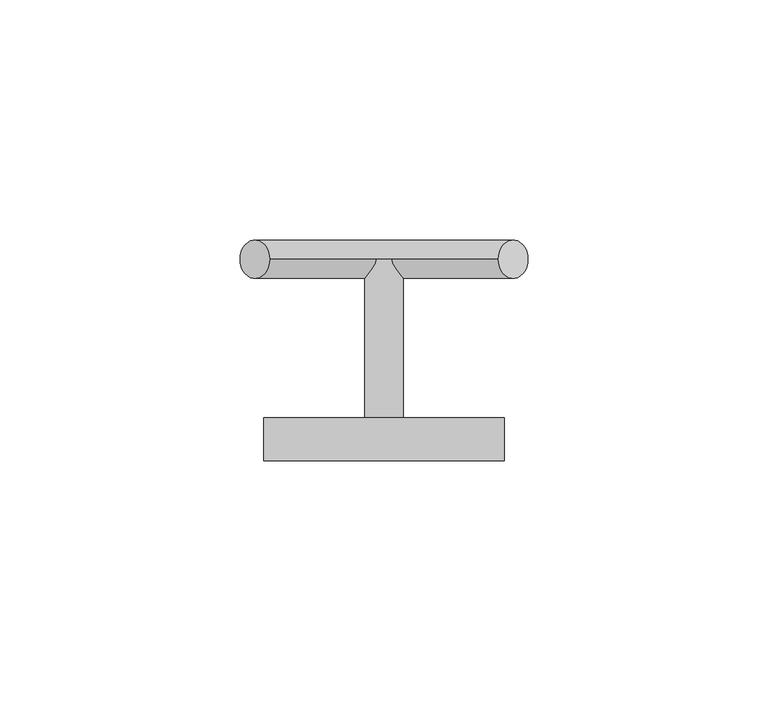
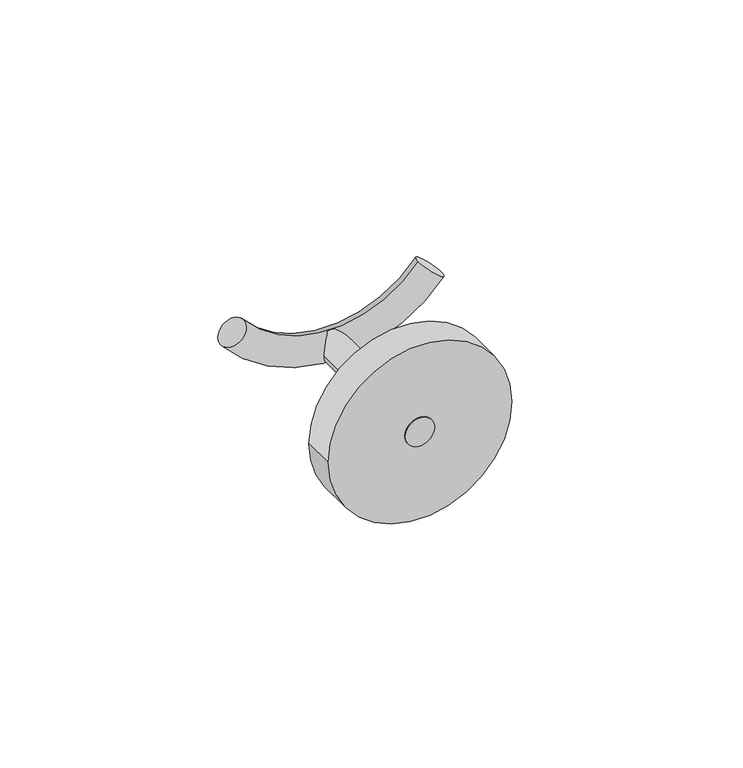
"""IFC4 building model written with IfcOpenShell, lengths in millimetres: flow terminal geometry, Toallero gancho Dica 1006 : Toallero gancho Dica 1006."""

from ifc_helpers import new_model, si_unit, point, frame, frame_2d, origin, place, context, project, spatial, circle_curve, ellipse_curve, trimmed, segment, composite_curve, outline, extrude, source, transform, mapped, element, save
from ifc_brep_helpers import plane_surface, revolved_surface, advanced_brep


def flow_terminal_dfb9102c(model_context):
    return source(origin(), model_context, "Body", "SolidModel", [
        extrude(outline(composite_curve([segment(trimmed(circle_curve(frame_2d((0.0, 125.0)), 4.0), [point((0.0, 121.0))], [point((0.0, 129.0))], False, "CARTESIAN"), True, "CONTINUOUS"), segment(trimmed(circle_curve(frame_2d((0.0, 125.0)), 4.0), [point((0.0, 129.0))], [point((0.0, 121.0))], False, "CARTESIAN"), True, "CONTINUOUS")], self_intersect=False)), frame((0.0, 26.85, 0.0), z_axis=(0.0, 1.0, 0.0), x_axis=(0.0, 0.0, 1.0)), (0.0, 0.0, 1.0), 41.9477391),
        extrude(outline(composite_curve([segment(trimmed(circle_curve(frame_2d((0.0, 125.0)), 25.0), [point((0.0, 100.0))], [point((0.0, 150.0))], False, "CARTESIAN"), True, "CONTINUOUS"), segment(trimmed(circle_curve(frame_2d((0.0, 125.0)), 25.0), [point((0.0, 150.0))], [point((0.0, 100.0))], False, "CARTESIAN"), True, "CONTINUOUS")], self_intersect=False)), frame((0.0, 26.85, 0.0), z_axis=(0.0, 1.0, 0.0), x_axis=(0.0, 0.0, 1.0)), (0.0, 0.0, 1.0), 8.9918697),
        advanced_brep(
        [(148.794894, 68.7977391, 15.1860733), (154.9551537, 68.7977391, 10.0820356), (101.205106, 68.7977391, 15.1860733), (95.0448463, 68.7977391, 10.0820356)],
        [
            (0, 1, circle_curve(frame((151.8750238, 68.7977391, 12.6340545), z_axis=(0.6380047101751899, 0.0, 0.7700324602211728), x_axis=(0.7700324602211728, 0.0, -0.6380047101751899)), 4.0)),
            (1, 0, circle_curve(frame((151.8750238, 68.7977391, 12.6340545), z_axis=(0.6380047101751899, 0.0, 0.7700324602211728), x_axis=(0.7700324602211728, 0.0, -0.6380047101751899)), 4.0)),
            (2, 3, circle_curve(frame((98.1249762, 68.7977391, 12.6340545), z_axis=(-0.6380047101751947, 0.0, 0.7700324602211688), x_axis=(-0.7700324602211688, 0.0, -0.6380047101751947)), 4.0)),
            (3, 2, circle_curve(frame((98.1249762, 68.7977391, 12.6340545), z_axis=(-0.6380047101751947, 0.0, 0.7700324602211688), x_axis=(-0.7700324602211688, 0.0, -0.6380047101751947)), 4.0)),
            (3, 1, circle_curve(frame((125.0, 68.7977391, 34.901157), z_axis=(0.0, -1.0, 0.0), x_axis=(0.7700324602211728, 0.0, -0.6380047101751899)), 38.901157)),
            (0, 2, circle_curve(frame((125.0, 68.7977391, 34.901157), z_axis=(0.0, 1.0, 0.0), x_axis=(0.7700324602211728, 0.0, -0.6380047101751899)), 30.901157)),
        ],
        [
            plane_surface(frame((151.8750238, 26.85, 12.6340545), z_axis=(0.6380047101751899, 0.0, 0.7700324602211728), x_axis=(0.0, -1.0, 0.0))),
            plane_surface(frame((98.1249762, 26.85, 12.6340545), z_axis=(-0.6380047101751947, 0.0, 0.7700324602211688), x_axis=(0.0, -1.0, 0.0))),
            revolved_surface(trimmed(ellipse_curve(frame((151.8750238, 68.7977391, 12.6340545), z_axis=(0.6380047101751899, 0.0, 0.7700324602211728), x_axis=(0.7700324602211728, 0.0, -0.6380047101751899)), 4.0, 4.0), [point((148.794894, 68.7977391, 15.1860733))], [point((154.9551537, 68.7977391, 10.0820356))], True, "CARTESIAN"), (125.0, 26.85, 34.901157), (0.0, 1.0, 0.0)),
            revolved_surface(trimmed(ellipse_curve(frame((151.8750238, 68.7977391, 12.6340545), z_axis=(0.6380047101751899, 0.0, 0.7700324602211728), x_axis=(0.7700324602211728, 0.0, -0.6380047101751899)), 4.0, 4.0), [point((154.9551537, 68.7977391, 10.0820356))], [point((148.794894, 68.7977391, 15.1860733))], True, "CARTESIAN"), (125.0, 26.85, 34.901157), (0.0, 1.0, 0.0)),
        ],
        [
            (0, [[1, 2]]),
            (1, [[3, 4]]),
            (2, [[5, -1, 6, -4]]),
            (3, [[-6, -2, -5, -3]]),
        ],
    ),
    ])


if __name__ == "__main__":
    model = new_model("IFC4")
    model_context = context("Model", 3, world=origin())
    ifc_project = project(units=[si_unit("LENGTHUNIT", "METRE", prefix="MILLI")], contexts=[model_context])
    site = spatial("IfcSite", under=ifc_project)
    building = spatial("IfcBuilding", under=site)
    placement = place(None, origin())
    flow_terminal_shape = flow_terminal_dfb9102c(model_context)
    element("IfcFlowTerminal", 1, ObjectType="Toallero gancho Dica 1006 : Toallero gancho Dica 1006", at=placement, inside=building, context=model_context, shape_type="MappedRepresentation", body=[
        mapped(flow_terminal_shape, transform((0.0, 0.0, 0.0), x_axis=(1.0, 0.0, 0.0), y_axis=(0.0, 1.0, 0.0), z_axis=(0.0, 0.0, 1.0))),
    ])
    save(model, "model.ifc")
